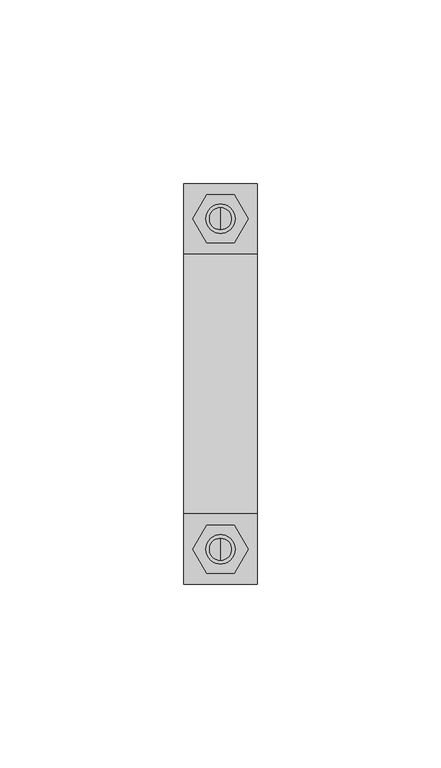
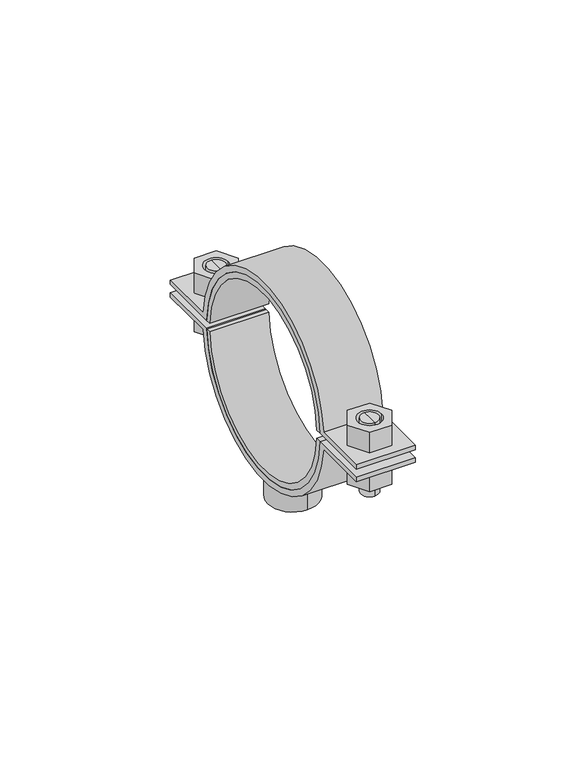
"""IFC4 building model written with IfcOpenShell, lengths in millimetres: valve geometry, Superfix DG2 Clamp Extra + : Superfix DG2 Clamp Extra +."""

from ifc_helpers import new_model, si_unit, point, frame, frame_2d, origin, origin_2d, place, context, project, spatial, polyline, circle_curve, trimmed, segment, composite_curve, outline, extrude, source, transform, mapped, element, save
from ifc_brep_helpers import plane_surface, cylinder_surface, advanced_brep


def valve_35f80758(model_context):
    return source(origin(), model_context, "Body", "SolidModel", [
        advanced_brep(
        [(0.0, 48.0, 334.4), (0.0, 42.0, 334.4), (0.0, 42.0, 348.5), (0.0, 48.0, 348.5), (0.0, 45.0, 334.4)],
        [
            (0, 1, circle_curve(frame((0.0, 45.0, 334.4), z_axis=(0.0, 0.0, 1.0), x_axis=(0.0, 1.0, 0.0)), 3.0)),
            (1, 2),
            (2, 3, circle_curve(frame((0.0, 45.0, 348.5), z_axis=(0.0, 0.0, -1.0), x_axis=(0.0, 1.0, 0.0)), 3.0)),
            (3, 0),
            (1, 0, circle_curve(frame((0.0, 45.0, 334.4), z_axis=(0.0, 0.0, 1.0), x_axis=(0.0, 1.0, 0.0)), 3.0)),
            (3, 2, circle_curve(frame((0.0, 45.0, 348.5), z_axis=(0.0, 0.0, -1.0), x_axis=(0.0, 1.0, 0.0)), 3.0)),
            (0, 4),
            (4, 1),
        ],
        [
            cylinder_surface(frame((0.0, 45.0, 348.2806094), z_axis=(0.0, 0.0, 1.0), x_axis=(0.0, 1.0, 0.0)), 3.0),
            plane_surface(frame((0.0, 45.0, 334.4), z_axis=(0.0, 0.0, -1.0), x_axis=(0.0, 1.0, 0.0))),
            plane_surface(frame((13.75, -54.5, 348.5), z_axis=(0.0, 0.0, 1.0), x_axis=(-1.0, 0.0, 0.0))),
        ],
        [
            (0, [[1, 2, 3, 4]]),
            (0, [[5, -4, 6, -2]]),
            (1, [[-1, 7, 8]]),
            (1, [[-5, -8, -7]]),
            (2, [[-3, -6]]),
        ],
    ),
        advanced_brep(
        [(0.0, 42.0, 360.6), (0.0, 48.0, 360.6), (0.0, 48.0, 351.5), (0.0, 42.0, 351.5), (0.0, 45.0, 360.6)],
        [
            (0, 1, circle_curve(frame((0.0, 45.0, 360.6), z_axis=(0.0, 0.0, -1.0), x_axis=(0.0, 1.0, 0.0)), 3.0)),
            (1, 2),
            (2, 3, circle_curve(frame((0.0, 45.0, 351.5), z_axis=(0.0, 0.0, 1.0), x_axis=(0.0, 1.0, 0.0)), 3.0)),
            (3, 0),
            (1, 0, circle_curve(frame((0.0, 45.0, 360.6), z_axis=(0.0, 0.0, -1.0), x_axis=(0.0, 1.0, 0.0)), 3.0)),
            (3, 2, circle_curve(frame((0.0, 45.0, 351.5), z_axis=(0.0, 0.0, 1.0), x_axis=(0.0, 1.0, 0.0)), 3.0)),
            (0, 4),
            (4, 1),
        ],
        [
            cylinder_surface(frame((0.0, 45.0, 348.2806094), z_axis=(0.0, 0.0, 1.0), x_axis=(0.0, 1.0, 0.0)), 3.0),
            plane_surface(frame((0.0, 45.0, 360.6), z_axis=(0.0, 0.0, 1.0), x_axis=(0.0, 1.0, 0.0))),
            plane_surface(frame((13.75, 54.5, 351.5), z_axis=(0.0, 0.0, -1.0), x_axis=(-1.0, 0.0, 0.0))),
        ],
        [
            (0, [[1, 2, 3, 4]]),
            (0, [[5, -4, 6, -2]]),
            (1, [[-1, 7, 8]]),
            (1, [[-5, -8, -7]]),
            (2, [[-3, -6]]),
        ],
    ),
        advanced_brep(
        [(0.0, -48.0, 360.6), (0.0, -42.0, 360.6), (0.0, -42.0, 351.5), (0.0, -48.0, 351.5), (0.0, -45.0, 360.6)],
        [
            (0, 1, circle_curve(frame((0.0, -45.0, 360.6), z_axis=(0.0, 0.0, -1.0), x_axis=(0.0, -1.0, 0.0)), 3.0)),
            (1, 2),
            (2, 3, circle_curve(frame((0.0, -45.0, 351.5), z_axis=(0.0, 0.0, 1.0), x_axis=(0.0, -1.0, 0.0)), 3.0)),
            (3, 0),
            (1, 0, circle_curve(frame((0.0, -45.0, 360.6), z_axis=(0.0, 0.0, -1.0), x_axis=(0.0, -1.0, 0.0)), 3.0)),
            (3, 2, circle_curve(frame((0.0, -45.0, 351.5), z_axis=(0.0, 0.0, 1.0), x_axis=(0.0, -1.0, 0.0)), 3.0)),
            (0, 4),
            (4, 1),
        ],
        [
            cylinder_surface(frame((0.0, -45.0, 348.2806094), z_axis=(0.0, 0.0, -1.0), x_axis=(0.0, -1.0, 0.0)), 3.0),
            plane_surface(frame((0.0, -45.0, 360.6), z_axis=(0.0, 0.0, 1.0), x_axis=(0.0, -1.0, 0.0))),
            plane_surface(frame((13.75, 54.5, 351.5), z_axis=(0.0, 0.0, -1.0), x_axis=(-1.0, 0.0, 0.0))),
        ],
        [
            (0, [[1, 2, 3, 4]]),
            (0, [[5, -4, 6, -2]]),
            (1, [[-1, 7, 8]]),
            (1, [[-5, -8, -7]]),
            (2, [[-3, -6]]),
        ],
    ),
        advanced_brep(
        [(0.0, -42.0, 334.4), (0.0, -48.0, 334.4), (0.0, -48.0, 348.5), (0.0, -42.0, 348.5), (0.0, -45.0, 334.4)],
        [
            (0, 1, circle_curve(frame((0.0, -45.0, 334.4), z_axis=(0.0, 0.0, 1.0), x_axis=(0.0, -1.0, 0.0)), 3.0)),
            (1, 2),
            (2, 3, circle_curve(frame((0.0, -45.0, 348.5), z_axis=(0.0, 0.0, -1.0), x_axis=(0.0, -1.0, 0.0)), 3.0)),
            (3, 0),
            (1, 0, circle_curve(frame((0.0, -45.0, 334.4), z_axis=(0.0, 0.0, 1.0), x_axis=(0.0, -1.0, 0.0)), 3.0)),
            (3, 2, circle_curve(frame((0.0, -45.0, 348.5), z_axis=(0.0, 0.0, -1.0), x_axis=(0.0, -1.0, 0.0)), 3.0)),
            (0, 4),
            (4, 1),
        ],
        [
            cylinder_surface(frame((0.0, -45.0, 348.2806094), z_axis=(0.0, 0.0, -1.0), x_axis=(0.0, -1.0, 0.0)), 3.0),
            plane_surface(frame((0.0, -45.0, 334.4), z_axis=(0.0, 0.0, -1.0), x_axis=(0.0, -1.0, 0.0))),
            plane_surface(frame((13.75, -54.5, 348.5), z_axis=(0.0, 0.0, 1.0), x_axis=(-1.0, 0.0, 0.0))),
        ],
        [
            (0, [[1, 2, 3, 4]]),
            (0, [[5, -4, 6, -2]]),
            (1, [[-1, 7, 8]]),
            (1, [[-5, -8, -7]]),
            (2, [[-3, -6]]),
        ],
    ),
        extrude(outline(composite_curve([segment(trimmed(circle_curve(frame_2d((0.0, 350.0)), 33.5), [point((-33.4664011, 348.5))], [point((33.4664011, 348.5))], True, "CARTESIAN"), True, "CONTINUOUS"), segment(polyline([(33.4664011, 348.5), (54.5, 348.5), (54.5, 347.0), (35.3730123, 347.0)]), True, "CONTINUOUS"), segment(trimmed(circle_curve(frame_2d((0.0, 350.0)), 35.5), [point((35.3730123, 347.0))], [point((-35.3730123, 347.0))], False, "CARTESIAN"), True, "CONTINUOUS"), segment(polyline([(-35.3730123, 347.0), (-54.5, 347.0), (-54.5, 348.5), (-33.4664011, 348.5)]), True, "CONTINUOUS")], self_intersect=False)), frame((-10.0, 0.0, 0.0), z_axis=(1.0, 0.0, 0.0), x_axis=(0.0, 1.0, 0.0)), (0.0, 0.0, 1.0), 20.0),
        extrude(outline(composite_curve([segment(trimmed(circle_curve(frame_2d((0.0, 350.0)), 33.5), [point((33.4664011, 351.5))], [point((-33.4664011, 351.5))], True, "CARTESIAN"), True, "CONTINUOUS"), segment(polyline([(-33.4664011, 351.5), (-54.5, 351.5), (-54.5, 353.0), (-35.3730123, 353.0)]), True, "CONTINUOUS"), segment(trimmed(circle_curve(frame_2d((0.0, 350.0)), 35.5), [point((-35.3730123, 353.0))], [point((35.3730123, 353.0))], False, "CARTESIAN"), True, "CONTINUOUS"), segment(polyline([(35.3730123, 353.0), (54.5, 353.0), (54.5, 351.5), (33.4664011, 351.5)]), True, "CONTINUOUS")], self_intersect=False)), frame((-10.0, 0.0, 0.0), z_axis=(1.0, 0.0, 0.0), x_axis=(0.0, 1.0, 0.0)), (0.0, 0.0, 1.0), 20.0),
        extrude(outline(polyline([(7.5055535, -45.0), (3.7527767, -51.5), (-3.7527767, -51.5), (-7.5055535, -45.0), (-3.7527767, -38.5), (3.7527767, -38.5), (7.5055535, -45.0)]), holes=[composite_curve([segment(trimmed(circle_curve(frame_2d((0.0, -45.0)), 4.0), [point((4.0, -45.0))], [point((-4.0, -45.0))], True, "CARTESIAN"), True, "CONTINUOUS"), segment(trimmed(circle_curve(frame_2d((0.0, -45.0)), 4.0), [point((-4.0, -45.0))], [point((4.0, -45.0))], True, "CARTESIAN"), True, "CONTINUOUS")], self_intersect=False)]), frame((0.0, 0.0, 353.0), z_axis=(0.0, 0.0, 1.0), x_axis=(1.0, 0.0, 0.0)), (0.0, 0.0, 1.0), 7.6),
        extrude(outline(polyline([(7.5055535, 45.0), (3.7527767, 38.5), (-3.7527767, 38.5), (-7.5055535, 45.0), (-3.7527767, 51.5), (3.7527767, 51.5), (7.5055535, 45.0)]), holes=[composite_curve([segment(trimmed(circle_curve(frame_2d((0.0, 45.0)), 4.0), [point((4.0, 45.0))], [point((-4.0, 45.0))], True, "CARTESIAN"), True, "CONTINUOUS"), segment(trimmed(circle_curve(frame_2d((0.0, 45.0)), 4.0), [point((-4.0, 45.0))], [point((4.0, 45.0))], True, "CARTESIAN"), True, "CONTINUOUS")], self_intersect=False)]), frame((0.0, 0.0, 353.0), z_axis=(0.0, 0.0, 1.0), x_axis=(1.0, 0.0, 0.0)), (0.0, 0.0, 1.0), 7.6),
        extrude(outline(polyline([(7.5055535, -45.0), (3.7527767, -51.5), (-3.7527767, -51.5), (-7.5055535, -45.0), (-3.7527767, -38.5), (3.7527767, -38.5), (7.5055535, -45.0)]), holes=[composite_curve([segment(trimmed(circle_curve(frame_2d((0.0, -45.0)), 4.0), [point((4.0, -45.0))], [point((-4.0, -45.0))], True, "CARTESIAN"), True, "CONTINUOUS"), segment(trimmed(circle_curve(frame_2d((0.0, -45.0)), 4.0), [point((-4.0, -45.0))], [point((4.0, -45.0))], True, "CARTESIAN"), True, "CONTINUOUS")], self_intersect=False)]), frame((0.0, 0.0, 339.4), z_axis=(0.0, 0.0, 1.0), x_axis=(1.0, 0.0, 0.0)), (0.0, 0.0, 1.0), 7.6),
        extrude(outline(polyline([(7.5055535, 45.0), (3.7527767, 38.5), (-3.7527767, 38.5), (-7.5055535, 45.0), (-3.7527767, 51.5), (3.7527767, 51.5), (7.5055535, 45.0)]), holes=[composite_curve([segment(trimmed(circle_curve(frame_2d((0.0, 45.0)), 4.0), [point((4.0, 45.0))], [point((-4.0, 45.0))], True, "CARTESIAN"), True, "CONTINUOUS"), segment(trimmed(circle_curve(frame_2d((0.0, 45.0)), 4.0), [point((-4.0, 45.0))], [point((4.0, 45.0))], True, "CARTESIAN"), True, "CONTINUOUS")], self_intersect=False)]), frame((0.0, 0.0, 339.4), z_axis=(0.0, 0.0, 1.0), x_axis=(1.0, 0.0, 0.0)), (0.0, 0.0, 1.0), 7.6),
        extrude(outline(composite_curve([segment(trimmed(circle_curve(origin_2d(), 8.5), [point((0.0, 8.5))], [point((0.0, -8.5))], False, "CARTESIAN"), True, "CONTINUOUS"), segment(trimmed(circle_curve(origin_2d(), 8.5), [point((0.0, -8.5))], [point((0.0, 8.5))], False, "CARTESIAN"), True, "CONTINUOUS")], self_intersect=False), holes=[composite_curve([segment(trimmed(circle_curve(origin_2d(), 5.0), [point((0.0, 5.0))], [point((0.0, -5.0))], True, "CARTESIAN"), True, "CONTINUOUS"), segment(trimmed(circle_curve(origin_2d(), 5.0), [point((0.0, -5.0))], [point((0.0, 5.0))], True, "CARTESIAN"), True, "CONTINUOUS")], self_intersect=False)]), frame((0.0, 0.0, 305.5), z_axis=(0.0, 0.0, 1.0), x_axis=(1.0, 0.0, 0.0)), (0.0, 0.0, 1.0), 11.5),
        extrude(outline(composite_curve([segment(trimmed(circle_curve(frame_2d((0.0, 350.0)), 31.5), [point((31.4642654, 351.5))], [point((-31.4642654, 351.5))], True, "CARTESIAN"), True, "CONTINUOUS"), segment(polyline([(-31.4642654, 351.5), (-33.4664011, 351.5)]), True, "CONTINUOUS"), segment(trimmed(circle_curve(frame_2d((0.0, 350.0)), 33.5), [point((-33.4664011, 351.5))], [point((33.4664011, 351.5))], False, "CARTESIAN"), True, "CONTINUOUS"), segment(polyline([(33.4664011, 351.5), (31.4642654, 351.5)]), True, "CONTINUOUS")], self_intersect=False)), frame((-10.0, 0.0, 0.0), z_axis=(1.0, 0.0, 0.0), x_axis=(0.0, 1.0, 0.0)), (0.0, 0.0, 1.0), 20.0),
        extrude(outline(composite_curve([segment(polyline([(31.4642654, 348.5), (33.4664011, 348.5)]), True, "CONTINUOUS"), segment(trimmed(circle_curve(frame_2d((0.0, 350.0)), 33.5), [point((33.4664011, 348.5))], [point((-33.4664011, 348.5))], False, "CARTESIAN"), True, "CONTINUOUS"), segment(polyline([(-33.4664011, 348.5), (-31.4642654, 348.5)]), True, "CONTINUOUS"), segment(trimmed(circle_curve(frame_2d((0.0, 350.0)), 31.5), [point((-31.4642654, 348.5))], [point((31.4642654, 348.5))], True, "CARTESIAN"), True, "CONTINUOUS")], self_intersect=False)), frame((-10.0, 0.0, 0.0), z_axis=(1.0, 0.0, 0.0), x_axis=(0.0, 1.0, 0.0)), (0.0, 0.0, 1.0), 20.0),
    ])


if __name__ == "__main__":
    model = new_model("IFC4")
    model_context = context("Model", 3, world=origin())
    ifc_project = project(units=[si_unit("LENGTHUNIT", "METRE", prefix="MILLI")], contexts=[model_context])
    site = spatial("IfcSite", under=ifc_project)
    building = spatial("IfcBuilding", under=site)
    placement = place(None, origin())
    valve_shape = valve_35f80758(model_context)
    element("IfcValve", 1, ObjectType="Superfix DG2 Clamp Extra + : Superfix DG2 Clamp Extra +", at=placement, inside=building, context=model_context, shape_type="MappedRepresentation", body=[
        mapped(valve_shape, transform((0.0, 0.0, 0.0), x_axis=(1.0, 0.0, 0.0), y_axis=(0.0, 1.0, 0.0), z_axis=(0.0, 0.0, 1.0))),
    ])
    save(model, "model.ifc")
